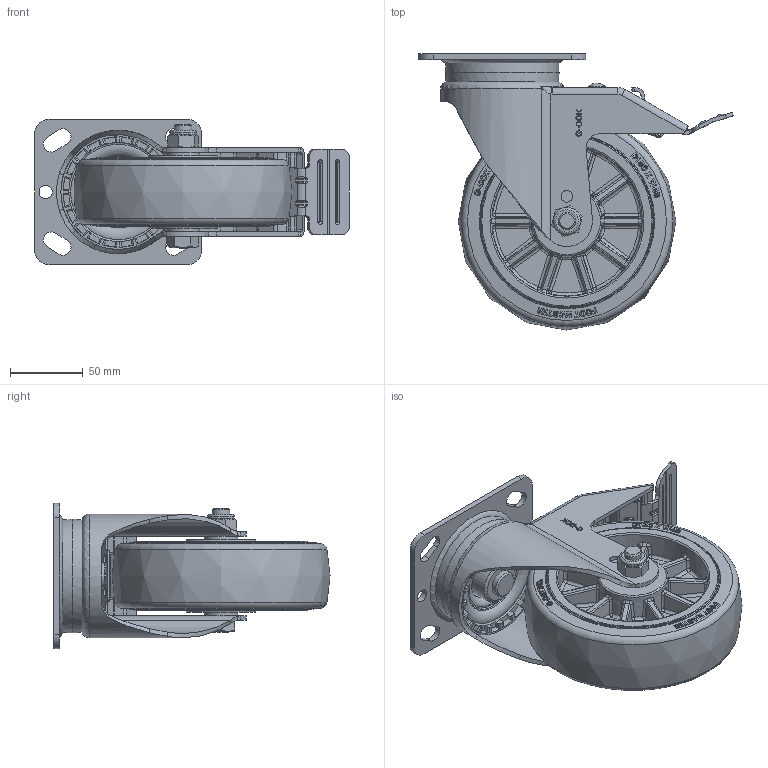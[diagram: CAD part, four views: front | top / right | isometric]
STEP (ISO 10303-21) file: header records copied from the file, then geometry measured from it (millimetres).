
FILE_DESCRIPTION(/* description */ (''),/* implementation_level */ '2;1');
FILE_NAME(/* name */ 'C:\Users\admin\Desktop\업무폴더\일자별 업무\2026\05월\05.15\변환\SPH-150-BSF-TUD&HRD.ipt.stp',/* time_stamp */ '2026-05-15T16:35:32+09:00',/* author */ ('admin'),/* organization */ ('지덕산업'),/* preprocessor_version */ 'ST-DEVELOPER v18.1',/* originating_system */ 'Autodesk Inventor 2021',/* authorisation */ '');
FILE_SCHEMA (('AUTOMOTIVE_DESIGN { 1 0 10303 214 3 1 1 }'));
Products named in the file (1): SPH-150-BSF-TUD&HRD
Bounding box: 216.47 x 190 x 100 mm (x, y, z)
Volume: 852025.7 mm3; surface area: 175432.7 mm2
Topology: 1 solids, 2 shells, 2040 faces, 5280 edges, 3316 vertices
Faces by surface type: plane 792, bspline 671, cylinder 329, torus 84, cone 83, sphere 81
Full cylindrical faces by diameter (mm): 6 x1, 8 x5, 9 x3, 12 x2, 18 x2, 18.5 x1, 31 x1, 31.177 x1
Entity records: 73325 total; most frequent: CARTESIAN_POINT 28753, ORIENTED_EDGE 10524, DIRECTION 7376, EDGE_CURVE 5264, VERTEX_POINT 3316, AXIS2_PLACEMENT_3D 2574, LINE 2228, VECTOR 2228
